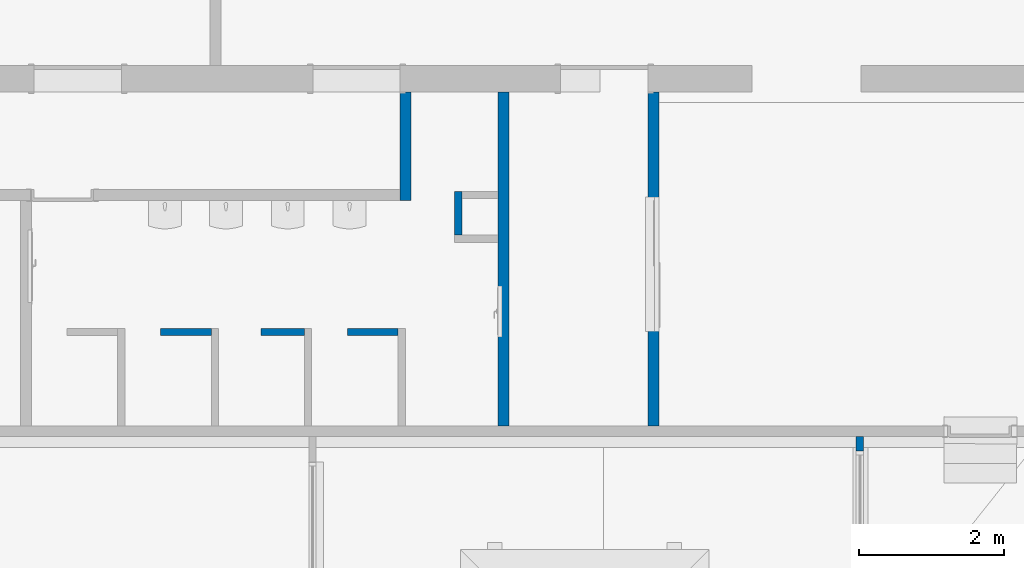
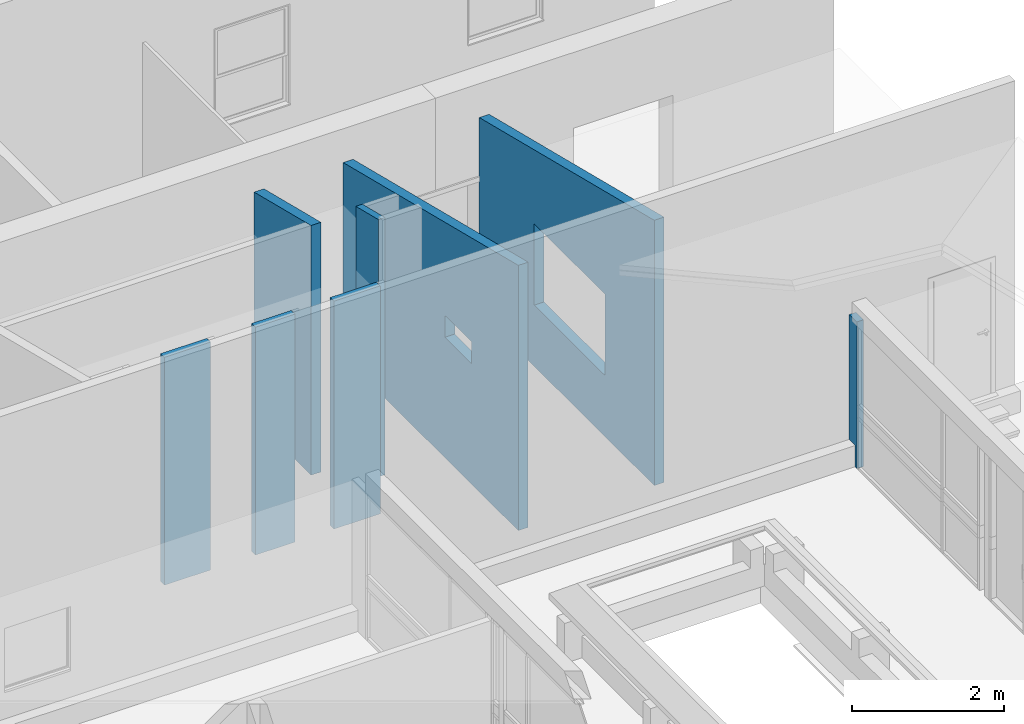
# One storey, part 145 of 153: 8 walls, 2 openings.
"""IFC4 building model written with IfcOpenShell, lengths in metres."""

from ifc_helpers import new_model, entity, si_unit, converted_unit, derived_unit, direction, frame, origin, place, context, subcontext, project, spatial, indexed_curve, outline, extrude, polygons, material, type_object, element, save


model = new_model("IFC4")

# Units and contexts
model_context = context("Model", 3, precision=1e-05, world=origin(), true_north=direction((6.123031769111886e-17, 1.0)))
body_context = subcontext(model_context, "Body", "Model", "MODEL_VIEW")
ifc_project = project(units=[si_unit("LENGTHUNIT", "METRE"), si_unit("AREAUNIT", "SQUARE_METRE"), si_unit("VOLUMEUNIT", "CUBIC_METRE"), converted_unit("PLANEANGLEUNIT", "DEGREE", entity("IfcRatioMeasure", 0.017453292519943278), si_unit("PLANEANGLEUNIT", "RADIAN"), dimensions=[0, 0, 0, 0, 0, 0, 0]), si_unit("MASSUNIT", "GRAM", prefix="KILO"), derived_unit("MASSDENSITYUNIT", [(si_unit("MASSUNIT", "GRAM", prefix="KILO"), 1), (si_unit("LENGTHUNIT", "METRE"), -3)]), derived_unit("MOMENTOFINERTIAUNIT", [(si_unit("LENGTHUNIT", "METRE"), 4)]), si_unit("TIMEUNIT", "SECOND"), si_unit("FREQUENCYUNIT", "HERTZ"), si_unit("THERMODYNAMICTEMPERATUREUNIT", "DEGREE_CELSIUS"), derived_unit("THERMALTRANSMITTANCEUNIT", [(si_unit("MASSUNIT", "GRAM", prefix="KILO"), 1), (si_unit("THERMODYNAMICTEMPERATUREUNIT", "KELVIN"), -1), (si_unit("TIMEUNIT", "SECOND"), -3)]), derived_unit("VOLUMETRICFLOWRATEUNIT", [(si_unit("LENGTHUNIT", "METRE"), 3), (si_unit("TIMEUNIT", "SECOND"), -1)]), derived_unit("MASSFLOWRATEUNIT", [(si_unit("MASSUNIT", "GRAM", prefix="KILO"), 1), (si_unit("TIMEUNIT", "SECOND"), -1)]), derived_unit("ROTATIONALFREQUENCYUNIT", [(si_unit("TIMEUNIT", "SECOND"), -1)]), si_unit("ELECTRICCURRENTUNIT", "AMPERE"), si_unit("ELECTRICVOLTAGEUNIT", "VOLT"), si_unit("POWERUNIT", "WATT"), si_unit("FORCEUNIT", "NEWTON", prefix="KILO"), si_unit("ILLUMINANCEUNIT", "LUX"), si_unit("LUMINOUSFLUXUNIT", "LUMEN"), si_unit("LUMINOUSINTENSITYUNIT", "CANDELA"), derived_unit("USERDEFINED", [(si_unit("MASSUNIT", "GRAM", prefix="KILO"), -1), (si_unit("LENGTHUNIT", "METRE"), -2), (si_unit("TIMEUNIT", "SECOND"), 3), (si_unit("LUMINOUSFLUXUNIT", "LUMEN"), 1)]), derived_unit("SOUNDPOWERUNIT", [(si_unit("MASSUNIT", "GRAM", prefix="KILO"), 1), (si_unit("LENGTHUNIT", "METRE"), 2), (si_unit("TIMEUNIT", "SECOND"), -3)]), derived_unit("SOUNDPRESSUREUNIT", [(si_unit("MASSUNIT", "GRAM", prefix="KILO"), 1), (si_unit("LENGTHUNIT", "METRE"), -1), (si_unit("TIMEUNIT", "SECOND"), -2)]), derived_unit("LINEARVELOCITYUNIT", [(si_unit("LENGTHUNIT", "METRE"), 1), (si_unit("TIMEUNIT", "SECOND"), -1)]), si_unit("PRESSUREUNIT", "PASCAL"), derived_unit("USERDEFINED", [(si_unit("LENGTHUNIT", "METRE"), -2), (si_unit("MASSUNIT", "GRAM", prefix="KILO"), 1), (si_unit("TIMEUNIT", "SECOND"), -2)]), derived_unit("LINEARFORCEUNIT", [(si_unit("MASSUNIT", "GRAM", prefix="KILO"), 1), (si_unit("LENGTHUNIT", "METRE"), 1), (si_unit("TIMEUNIT", "SECOND"), -2), (si_unit("LENGTHUNIT", "METRE"), -1)]), derived_unit("PLANARFORCEUNIT", [(si_unit("MASSUNIT", "GRAM", prefix="KILO"), 1), (si_unit("LENGTHUNIT", "METRE"), 1), (si_unit("TIMEUNIT", "SECOND"), -2), (si_unit("LENGTHUNIT", "METRE"), -2)])], contexts=[model_context])

# Site, building, storey
site_placement = place(None, origin())
site = spatial("IfcSite", under=ifc_project, at=site_placement, Name="Superficie", CompositionType="ELEMENT")
building_placement = place(site_placement, origin())
building = spatial("IfcBuilding", under=site, at=building_placement, CompositionType="ELEMENT")
storey_placement = place(building_placement, frame((0.0, 0.0, 3.5999999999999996)))
storey = spatial("IfcBuildingStorey", under=building, at=storey_placement, Name="Nivel 1", CompositionType="ELEMENT", Elevation=3.5999999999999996)

# Walls
ifc_material = material(Name="Muro por defecto", Category="Varios")
wall_type_1 = type_object("IfcWallType", Name="Muro básico:Por defecto - 10 cm", PredefinedType="STANDARD")
wall_1_placement = place(storey_placement, frame((18.12679901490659, 5.426393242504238, 0.0), z_axis=(0.0, 0.0, 1.0), x_axis=(0.0, 1.0, 0.0)))
element("IfcWall", 1, at=wall_1_placement, inside=storey, type_object=wall_type_1, material=ifc_material, Name="Muro básico:Por defecto - 10 cm", ObjectType="Muro básico:Por defecto - 10 cm", PredefinedType="NOTDEFINED", context=body_context, shape_type="Tessellation", body=[
    polygons([(0.0, -0.04999999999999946, 5.414335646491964e-16), (0.049436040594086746, -0.04999999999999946, 5.414335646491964e-16), (0.049436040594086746, -0.04999999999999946, 0.3500000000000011), (0.19943604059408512, -0.04999999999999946, 0.3500000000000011), (0.19943604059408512, -0.04999999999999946, 2.3500000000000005), (0.0, -0.04999999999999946, 2.3500000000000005), (0.0, 0.0499999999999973, 5.414335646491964e-16), (0.0, 0.0499999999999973, 2.3500000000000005), (0.1994360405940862, 0.0499999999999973, 2.3500000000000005), (0.1994360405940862, 0.0499999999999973, 0.3500000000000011), (0.049436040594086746, 0.0499999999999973, 0.3500000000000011), (0.049436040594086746, 0.0499999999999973, 5.414335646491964e-16)], [[[1, 2, 3, 4, 5, 6]], [[7, 8, 9, 10, 11, 12]], [[2, 1, 7, 12]], [[6, 5, 9, 8]], [[1, 6, 8, 7]], [[10, 4, 3, 11]], [[3, 2, 12, 11]], [[5, 4, 10, 9]]], closed=True),
])
wall_2_placement = place(storey_placement, frame((11.776001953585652, 7.065829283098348, 0.5199999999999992), z_axis=(0.0, 0.0, 1.0), x_axis=(-1.0, 0.0, 0.0)))
element("IfcWall", 2, at=wall_2_placement, inside=storey, type_object=wall_type_1, material=ifc_material, Name="Muro básico:Por defecto - 10 cm", ObjectType="Muro básico:Por defecto - 10 cm", PredefinedType="NOTDEFINED", context=body_context, shape_type="Tessellation", body=[
    polygons([(3.5836492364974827e-16, -0.050000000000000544, 5.414335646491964e-16), (0.6999999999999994, -0.050000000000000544, 5.414335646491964e-16), (0.6999999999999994, -0.050000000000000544, 3.6499999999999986), (3.5836492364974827e-16, -0.050000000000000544, 3.6499999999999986), (4.8974315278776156e-17, 0.050000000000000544, 5.414335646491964e-16), (4.8974315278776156e-17, 0.050000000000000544, 3.6499999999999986), (0.699999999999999, 0.04999999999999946, 3.6499999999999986), (0.699999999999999, 0.04999999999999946, 5.414335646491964e-16)], [[[1, 2, 3, 4]], [[5, 6, 7, 8]], [[3, 2, 8, 7]], [[4, 3, 7, 6]], [[1, 4, 6, 5]], [[2, 1, 5, 8]]], closed=True),
])
wall_3_placement = place(storey_placement, frame((10.486001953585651, 7.065829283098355, 0.5199999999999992), z_axis=(0.0, 0.0, 1.0), x_axis=(-1.0, 0.0, 0.0)))
element("IfcWall", 3, at=wall_3_placement, inside=storey, type_object=wall_type_1, material=ifc_material, Name="Muro básico:Por defecto - 10 cm", ObjectType="Muro básico:Por defecto - 10 cm", PredefinedType="NOTDEFINED", context=body_context, shape_type="Tessellation", body=[
    polygons([(-1.7918246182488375e-16, -0.050000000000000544, 5.414335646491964e-16), (0.5999999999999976, -0.050000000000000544, 5.414335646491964e-16), (0.5999999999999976, -0.050000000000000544, 3.6499999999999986), (-1.7918246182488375e-16, -0.050000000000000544, 3.6499999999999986), (-2.4487157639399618e-17, 0.04999999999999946, 5.414335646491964e-16), (-2.4487157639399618e-17, 0.04999999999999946, 3.6499999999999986), (0.5999999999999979, 0.04999999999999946, 3.6499999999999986), (0.5999999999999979, 0.04999999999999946, 5.414335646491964e-16)], [[[1, 2, 3, 4]], [[5, 6, 7, 8]], [[3, 2, 8, 7]], [[4, 3, 7, 6]], [[1, 4, 6, 5]], [[2, 1, 5, 8]]], closed=True),
])
wall_4_placement = place(storey_placement, frame((9.20600195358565, 7.065829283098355, 0.5199999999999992), z_axis=(0.0, 0.0, 1.0), x_axis=(-1.0, 0.0, 0.0)))
element("IfcWall", 4, at=wall_4_placement, inside=storey, type_object=wall_type_1, material=ifc_material, Name="Muro básico:Por defecto - 10 cm", ObjectType="Muro básico:Por defecto - 10 cm", PredefinedType="NOTDEFINED", context=body_context, shape_type="Tessellation", body=[
    polygons([(-5.453197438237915e-16, -0.050000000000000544, 5.414335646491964e-16), (0.7000000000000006, -0.050000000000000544, 5.414335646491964e-16), (0.7000000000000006, -0.050000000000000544, 3.6499999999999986), (-5.453197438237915e-16, -0.050000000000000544, 3.6499999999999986), (-1.0094056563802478e-15, 0.04999999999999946, 5.414335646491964e-16), (-1.0094056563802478e-15, 0.04999999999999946, 3.6499999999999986), (0.7000000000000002, 0.04999999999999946, 3.6499999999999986), (0.7000000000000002, 0.04999999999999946, 5.414335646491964e-16)], [[[1, 2, 3, 4]], [[5, 6, 7, 8]], [[3, 2, 8, 7]], [[4, 3, 7, 6]], [[1, 4, 6, 5]], [[2, 1, 5, 8]]], closed=True),
])
wall_5_placement = place(storey_placement, frame((12.60100195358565, 8.400829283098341, 0.0), z_axis=(0.0, 0.0, 1.0), x_axis=(0.0, 1.0, 0.0)))
element("IfcWall", 5, at=wall_5_placement, inside=storey, type_object=wall_type_1, material=ifc_material, Name="Muro básico:Por defecto - 10 cm", ObjectType="Muro básico:Por defecto - 10 cm", PredefinedType="NOTDEFINED", context=body_context, shape_type="Tessellation", body=[
    polygons([(0.0, -0.04999999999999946, 5.414335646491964e-16), (0.49999999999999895, -0.04999999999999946, 5.414335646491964e-16), (0.5999999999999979, -0.04999999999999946, 5.414335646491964e-16), (0.5999999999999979, -0.04999999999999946, 3.9691774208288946), (0.49999999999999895, -0.04999999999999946, 3.9939708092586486), (0.0, -0.04999999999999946, 4.117937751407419), (0.0, 0.04999999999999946, 5.414335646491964e-16), (0.0, 0.04999999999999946, 4.117937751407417), (0.5999999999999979, 0.04999999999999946, 3.9691774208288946), (0.5999999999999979, 0.04999999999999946, 5.414335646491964e-16)], [[[1, 2, 3, 4, 5, 6]], [[7, 8, 9, 10]], [[3, 2, 1, 7, 10]], [[1, 6, 8, 7]], [[4, 3, 10, 9]], [[6, 5, 4, 9, 8]]], closed=True),
])

# Wall, opening
wall_type_2 = type_object("IfcWallType", Name="Muro básico:Por defecto - 15 cm 2", PredefinedType="STANDARD")
wall_6_placement = place(storey_placement, frame((15.286001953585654, 10.370829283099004, 0.5199999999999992), z_axis=(0.0, 0.0, 1.0), x_axis=(0.0, -1.0, 0.0)))
wall_6 = element("IfcWall", 6, at=wall_6_placement, inside=storey, type_object=wall_type_2, material=ifc_material, Name="Muro básico:Por defecto - 15 cm 2", ObjectType="Muro básico:Por defecto - 15 cm 2", PredefinedType="NOTDEFINED", context=body_context, shape_type="Tessellation", body=[
    polygons([(3.2950000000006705, -0.07499999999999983, 0.9800000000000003), (1.445000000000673, -0.07500000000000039, 0.9800000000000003), (1.445000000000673, -0.07500000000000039, 2.2800000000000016), (3.2950000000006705, -0.07499999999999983, 2.2800000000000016), (6.497202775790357e-15, -0.07500000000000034, 5.414335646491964e-16), (4.595000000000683, -0.07499999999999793, 5.414335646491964e-16), (4.595000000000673, -0.07499999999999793, 4.248764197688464), (2.1657342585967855e-15, -0.07500000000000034, 3.109507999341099), (2.1657342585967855e-15, -0.07500000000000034, 2.099999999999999), (3.2950000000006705, 0.07500000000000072, 0.9800000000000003), (3.2950000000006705, 0.07500000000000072, 2.2800000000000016), (1.445000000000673, 0.07500000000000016, 2.2800000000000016), (1.445000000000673, 0.07500000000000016, 0.9800000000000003), (1.0828671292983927e-14, 0.0750000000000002, 5.414335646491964e-16), (1.0828671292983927e-14, 0.0750000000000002, 3.1095079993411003), (4.595000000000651, 0.07500000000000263, 4.248764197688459), (4.595000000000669, 0.07500000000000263, 5.414335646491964e-16)], [[[5, 6, 7, 8, 9], [1, 2, 3, 4]], [[14, 15, 16, 17], [10, 11, 12, 13]], [[6, 17, 16, 7]], [[11, 10, 1, 4]], [[12, 11, 4, 3]], [[13, 12, 3, 2]], [[10, 13, 2, 1]], [[5, 9, 8, 15, 14]], [[8, 7, 16, 15]], [[6, 5, 14, 17]]], closed=True),
])
opening_1_placement = place(wall_6_placement, frame((3.295000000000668, 0.07499999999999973, 0.9800000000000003)))
element("IfcOpeningElement", 7, at=opening_1_placement, cuts=wall_6, Name="Ventana corredera de 2 hojas 2:1850 x 1300mm 2:1", PredefinedType="OPENING", context=body_context, shape_type="SweptSolid", body=[
    extrude(outline(indexed_curve([(0.0, -1.052679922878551e-33), (1.3000000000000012, -1.052679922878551e-33), (1.3000000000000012, 1.849999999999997), (0.0, 1.849999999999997), (0.0, -1.052679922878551e-33)], self_intersect=False)), frame((0.0, 0.0, 0.0), z_axis=(0.0, -1.0, 0.0), x_axis=(0.0, 0.0, 1.0)), (0.0, 0.0, 1.0), 0.14999999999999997),
])

wall_7_placement = place(storey_placement, frame((13.226001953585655, 10.37082928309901, 0.5200000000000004), z_axis=(0.0, 0.0, 1.0), x_axis=(0.0, -1.0, 0.0)))
wall_7 = element("IfcWall", 8, at=wall_7_placement, inside=storey, type_object=wall_type_2, material=ifc_material, Name="Muro básico:Por defecto - 15 cm 2", ObjectType="Muro básico:Por defecto - 15 cm 2", PredefinedType="NOTDEFINED", context=body_context, shape_type="Tessellation", body=[
    polygons([(2.670000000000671, -0.07500000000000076, 1.93), (2.670000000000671, -0.07500000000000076, 2.279999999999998), (3.370000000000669, -0.07499999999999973, 2.279999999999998), (3.370000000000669, -0.07499999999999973, 1.93), (1.0828671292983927e-14, -0.07500000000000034, -5.414335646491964e-16), (4.5950000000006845, -0.07499999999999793, -5.414335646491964e-16), (4.59500000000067, -0.07499999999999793, 4.248764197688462), (1.470000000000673, -0.07500000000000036, 3.4739708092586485), (1.370000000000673, -0.0750000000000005, 3.4491774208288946), (4.331468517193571e-15, -0.07500000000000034, 3.109507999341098), (1.2994405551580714e-14, 0.0750000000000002, -5.414335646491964e-16), (1.2994405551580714e-14, 0.0750000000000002, 3.109507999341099), (4.59500000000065, 0.07500000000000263, 4.248764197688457), (4.595000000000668, 0.07500000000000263, -5.414335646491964e-16), (2.670000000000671, 0.07499999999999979, 1.93), (3.370000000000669, 0.07500000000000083, 1.93), (3.370000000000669, 0.07500000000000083, 2.279999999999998), (2.670000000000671, 0.07499999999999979, 2.279999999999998)], [[[5, 6, 7, 8, 9, 10], [1, 2, 3, 4]], [[11, 12, 13, 14], [15, 16, 17, 18]], [[6, 14, 13, 7]], [[5, 10, 12, 11]], [[2, 1, 15, 18]], [[3, 2, 18, 17]], [[4, 3, 17, 16]], [[1, 4, 16, 15]], [[10, 9, 8, 7, 13, 12]], [[6, 5, 11, 14]]], closed=True),
])
opening_2_placement = place(wall_7_placement, frame((2.670000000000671, -0.0750000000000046, 1.93)))
element("IfcOpeningElement", 9, at=opening_2_placement, cuts=wall_7, Name="Ventana basculante:35 x 70mm 2:1", PredefinedType="OPENING", context=body_context, shape_type="SweptSolid", body=[
    extrude(outline(indexed_curve([(0.0, -2.7071678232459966e-16), (0.3499999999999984, -2.7071678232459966e-16), (0.34999999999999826, 0.699999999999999), (0.0, 0.699999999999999), (0.0, -2.7071678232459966e-16)], self_intersect=False)), frame((0.0, 0.0, 0.0), z_axis=(0.0, 1.0, 0.0), x_axis=(0.0, 0.0, 1.0)), (0.0, 0.0, 1.0), 0.14999999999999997),
])

# Wall
wall_8_placement = place(storey_placement, frame((11.876001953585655, 10.37082928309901, 0.0), z_axis=(0.0, 0.0, 1.0), x_axis=(0.0, -1.0, 0.0)))
element("IfcWall", 10, at=wall_8_placement, inside=storey, type_object=wall_type_2, material=ifc_material, Name="Muro básico:Por defecto - 15 cm 2", ObjectType="Muro básico:Por defecto - 15 cm 2", PredefinedType="NOTDEFINED", context=body_context, shape_type="Tessellation", body=[
    polygons([(1.0828671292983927e-14, -0.0749999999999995, 5.414335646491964e-16), (1.4950000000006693, -0.07499999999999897, 5.414335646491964e-16), (1.4950000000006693, -0.07499999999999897, 0.5200000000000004), (1.4950000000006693, -0.07499999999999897, 4.000169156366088), (1.3450000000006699, -0.07499999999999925, 3.9629790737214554), (2.1657342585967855e-15, -0.0749999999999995, 3.629507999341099), (1.0828671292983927e-14, 0.07500000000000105, 5.414335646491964e-16), (1.0828671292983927e-14, 0.07500000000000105, 3.6295079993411), (1.4950000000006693, 0.07500000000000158, 4.000169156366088), (1.4950000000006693, 0.07500000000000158, 5.414335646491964e-16)], [[[1, 2, 3, 4, 5, 6]], [[7, 8, 9, 10]], [[2, 1, 7, 10]], [[1, 6, 8, 7]], [[4, 3, 2, 10, 9]], [[6, 5, 4, 9, 8]]], closed=True),
])

save(model, "model.ifc")
